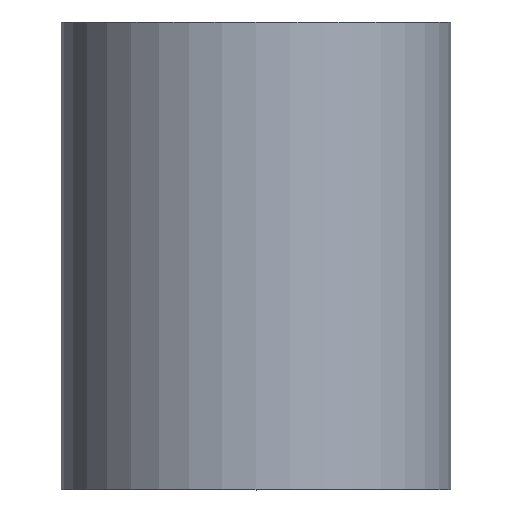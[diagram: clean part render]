
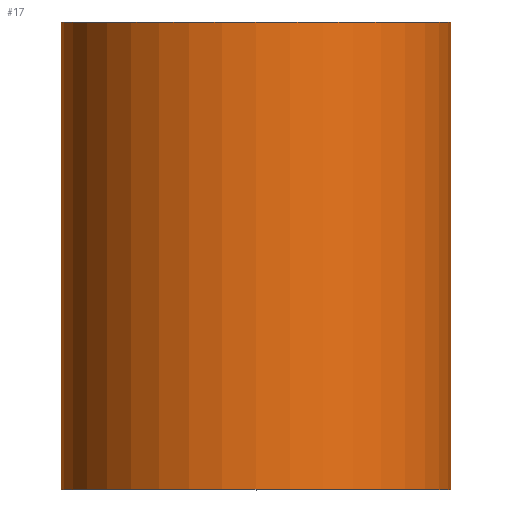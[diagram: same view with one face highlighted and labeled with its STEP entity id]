
A CAD part, top view. The second image highlights one B-rep face of the part: STEP entity #17.
In plain terms, the highlighted cylindrical face has radius 10 mm (diameter 20 mm), a full revolution.
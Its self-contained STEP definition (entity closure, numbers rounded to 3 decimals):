
#17 = ADVANCED_FACE('',(#18),#31,.T.);
#18 = FACE_BOUND('',#19,.T.);
#19 = EDGE_LOOP('',(#20,#54,#77,#104));
#20 = ORIENTED_EDGE('',*,*,#21,.F.);
#21 = EDGE_CURVE('',#22,#22,#24,.T.);
#22 = VERTEX_POINT('',#23);
#23 = CARTESIAN_POINT('',(439.,12.,48.5));
#24 = SURFACE_CURVE('',#25,(#30,#42),.PCURVE_S1.);
#25 = CIRCLE('',#26,10.);
#26 = AXIS2_PLACEMENT_3D('',#27,#28,#29);
#27 = CARTESIAN_POINT('',(439.,12.,38.5));
#28 = DIRECTION('',(0.,1.,0.));
#29 = DIRECTION('',(0.,-0.,1.));
#30 = PCURVE('',#31,#36);
#31 = CYLINDRICAL_SURFACE('',#32,10.);
#32 = AXIS2_PLACEMENT_3D('',#33,#34,#35);
#33 = CARTESIAN_POINT('',(439.,-12.,38.5));
#34 = DIRECTION('',(0.,1.,0.));
#35 = DIRECTION('',(0.,-0.,1.));
#36 = DEFINITIONAL_REPRESENTATION('',(#37),#41);
#37 = LINE('',#38,#39);
#38 = CARTESIAN_POINT('',(0.,24.));
#39 = VECTOR('',#40,1.);
#40 = DIRECTION('',(1.,0.));
#41 = ( GEOMETRIC_REPRESENTATION_CONTEXT(2) 
PARAMETRIC_REPRESENTATION_CONTEXT() REPRESENTATION_CONTEXT('2D SPACE',''
  ) );
#42 = PCURVE('',#43,#48);
#43 = PLANE('',#44);
#44 = AXIS2_PLACEMENT_3D('',#45,#46,#47);
#45 = CARTESIAN_POINT('',(439.,12.,38.5));
#46 = DIRECTION('',(0.,1.,0.));
#47 = DIRECTION('',(0.,-0.,1.));
#48 = DEFINITIONAL_REPRESENTATION('',(#49),#53);
#49 = CIRCLE('',#50,10.);
#50 = AXIS2_PLACEMENT_2D('',#51,#52);
#51 = CARTESIAN_POINT('',(0.,0.));
#52 = DIRECTION('',(1.,0.));
#53 = ( GEOMETRIC_REPRESENTATION_CONTEXT(2) 
PARAMETRIC_REPRESENTATION_CONTEXT() REPRESENTATION_CONTEXT('2D SPACE',''
  ) );
#54 = ORIENTED_EDGE('',*,*,#55,.F.);
#55 = EDGE_CURVE('',#56,#22,#58,.T.);
#56 = VERTEX_POINT('',#57);
#57 = CARTESIAN_POINT('',(439.,-12.,48.5));
#58 = SEAM_CURVE('',#59,(#63,#70),.PCURVE_S1.);
#59 = LINE('',#60,#61);
#60 = CARTESIAN_POINT('',(439.,-12.,48.5));
#61 = VECTOR('',#62,1.);
#62 = DIRECTION('',(0.,1.,0.));
#63 = PCURVE('',#31,#64);
#64 = DEFINITIONAL_REPRESENTATION('',(#65),#69);
#65 = LINE('',#66,#67);
#66 = CARTESIAN_POINT('',(6.283,-0.));
#67 = VECTOR('',#68,1.);
#68 = DIRECTION('',(0.,1.));
#69 = ( GEOMETRIC_REPRESENTATION_CONTEXT(2) 
PARAMETRIC_REPRESENTATION_CONTEXT() REPRESENTATION_CONTEXT('2D SPACE',''
  ) );
#70 = PCURVE('',#31,#71);
#71 = DEFINITIONAL_REPRESENTATION('',(#72),#76);
#72 = LINE('',#73,#74);
#73 = CARTESIAN_POINT('',(0.,-0.));
#74 = VECTOR('',#75,1.);
#75 = DIRECTION('',(0.,1.));
#76 = ( GEOMETRIC_REPRESENTATION_CONTEXT(2) 
PARAMETRIC_REPRESENTATION_CONTEXT() REPRESENTATION_CONTEXT('2D SPACE',''
  ) );
#77 = ORIENTED_EDGE('',*,*,#78,.T.);
#78 = EDGE_CURVE('',#56,#56,#79,.T.);
#79 = SURFACE_CURVE('',#80,(#85,#92),.PCURVE_S1.);
#80 = CIRCLE('',#81,10.);
#81 = AXIS2_PLACEMENT_3D('',#82,#83,#84);
#82 = CARTESIAN_POINT('',(439.,-12.,38.5));
#83 = DIRECTION('',(0.,1.,0.));
#84 = DIRECTION('',(0.,-0.,1.));
#85 = PCURVE('',#31,#86);
#86 = DEFINITIONAL_REPRESENTATION('',(#87),#91);
#87 = LINE('',#88,#89);
#88 = CARTESIAN_POINT('',(0.,0.));
#89 = VECTOR('',#90,1.);
#90 = DIRECTION('',(1.,0.));
#91 = ( GEOMETRIC_REPRESENTATION_CONTEXT(2) 
PARAMETRIC_REPRESENTATION_CONTEXT() REPRESENTATION_CONTEXT('2D SPACE',''
  ) );
#92 = PCURVE('',#93,#98);
#93 = PLANE('',#94);
#94 = AXIS2_PLACEMENT_3D('',#95,#96,#97);
#95 = CARTESIAN_POINT('',(439.,-12.,38.5));
#96 = DIRECTION('',(0.,1.,0.));
#97 = DIRECTION('',(0.,-0.,1.));
#98 = DEFINITIONAL_REPRESENTATION('',(#99),#103);
#99 = CIRCLE('',#100,10.);
#100 = AXIS2_PLACEMENT_2D('',#101,#102);
#101 = CARTESIAN_POINT('',(0.,0.));
#102 = DIRECTION('',(1.,0.));
#103 = ( GEOMETRIC_REPRESENTATION_CONTEXT(2) 
PARAMETRIC_REPRESENTATION_CONTEXT() REPRESENTATION_CONTEXT('2D SPACE',''
  ) );
#104 = ORIENTED_EDGE('',*,*,#55,.T.);
